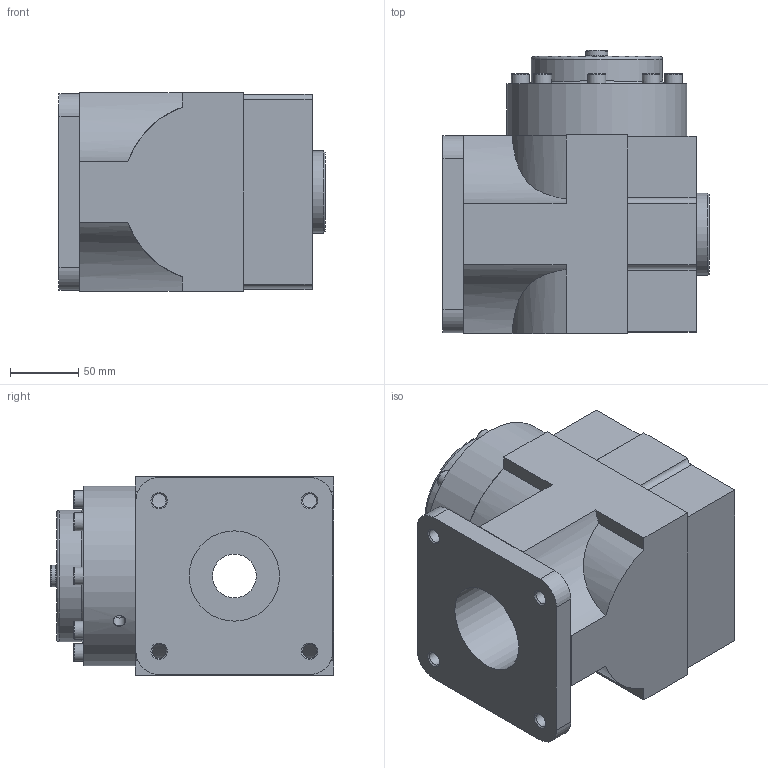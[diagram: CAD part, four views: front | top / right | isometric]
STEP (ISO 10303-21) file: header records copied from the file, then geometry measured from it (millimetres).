
FILE_DESCRIPTION( ( 'STEP AP214' ), ' ' );
FILE_NAME( 'p:/temp/worker_166/4176_648/app_78_02016022515332326241495192d056f_000000_00_00_000000/format_1/L1-N12532.stp', '2016-02-25T14:33:25', ( '' ), ( '' ), ' ', 'PARTsolutions', ' ' );
FILE_SCHEMA( ( 'AUTOMOTIVE_DESIGN { 1 0 10303 214 1 1 1 1 }' ) );
Length unit declared in the file: millimetre
Products named in the file (1): _L1-N12532
Bounding box: 194.5 x 207 x 145 mm (x, y, z)
Volume: 3799146.4 mm3; surface area: 206979.6 mm2
Topology: 1 solids, 1 shells, 179 faces, 451 edges, 288 vertices
Faces by surface type: plane 108, cylinder 40, cone 21, torus 10
Full cylindrical faces by diameter (mm): 1.5 x1, 8.566 x1, 10.106 x8, 13 x8, 16 x1, 32 x1, 60 x1, 66 x1, 96 x1, 131.5 x1
Entity records: 6634 total; most frequent: CARTESIAN_POINT 1110, DIRECTION 844, ORIENTED_EDGE 760, EDGE_CURVE 380, AXIS2_PLACEMENT_3D 297, VERTEX_POINT 277, EDGE_LOOP 258, LINE 250
